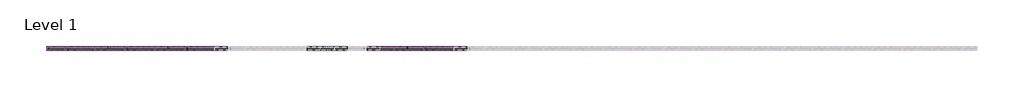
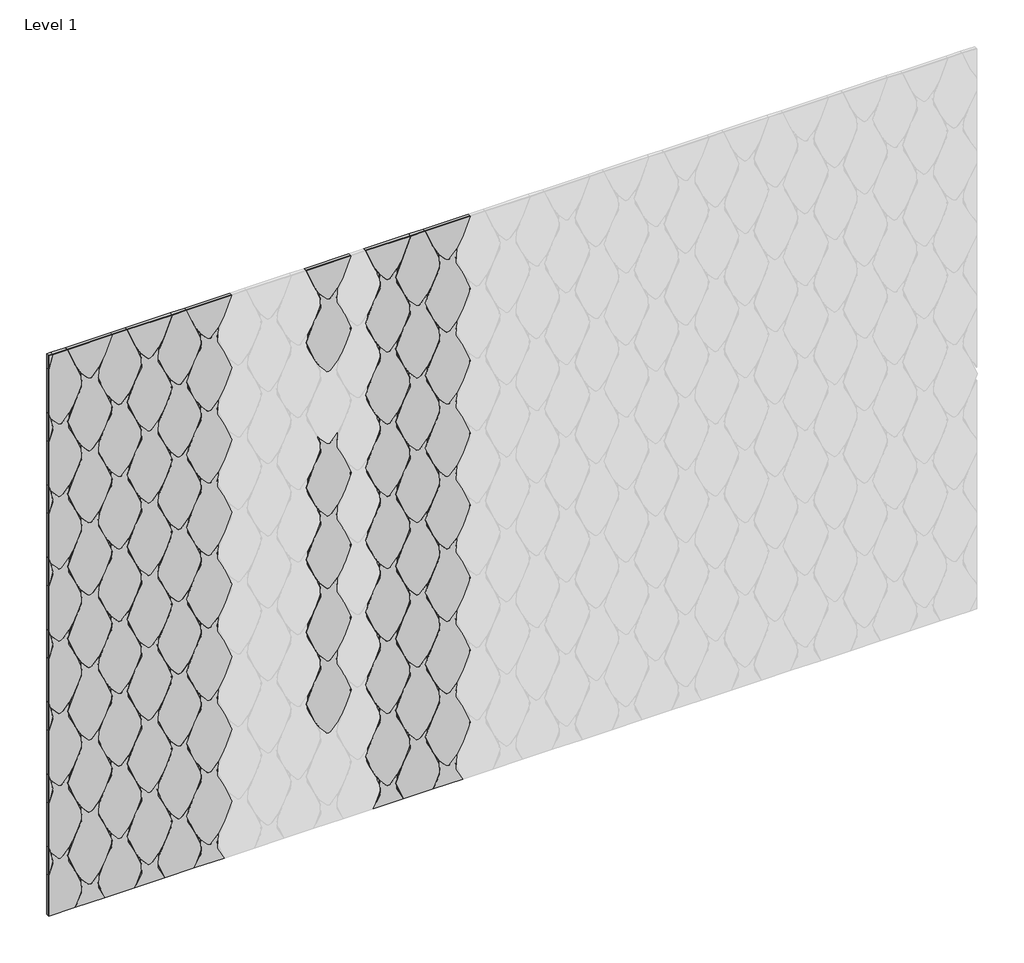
# One storey, part 1 of 3: 91 proxies.
"""IFC4 building model written with IfcOpenShell, lengths in millimetres."""

from ifc_helpers import new_model, si_unit, origin, place, context, project, spatial, transform, mapped, element, save
from components import specialty_equipment_90dfa3fd, specialty_equipment_58f33b70, specialty_equipment_1d68d449, specialty_equipment_25086a34, specialty_equipment_ef051c02, specialty_equipment_d7a9fa1d, specialty_equipment_cac041dc, specialty_equipment_c87418b1, specialty_equipment_1cb976ee, specialty_equipment_ba96d7a5, specialty_equipment_e357aaf0, specialty_equipment_11b84949, specialty_equipment_9e3873a9, specialty_equipment_e37880f2, specialty_equipment_932aa2c9, specialty_equipment_662c23e2, specialty_equipment_1b5a1322, specialty_equipment_7e85a94d

model = new_model("IFC4")

# Units and contexts
model_context = context("Model", 3, world=origin())
ifc_project = project(units=[si_unit("LENGTHUNIT", "METRE", prefix="MILLI")], contexts=[model_context])

# Site, building, storey
site = spatial("IfcSite", under=ifc_project)
building = spatial("IfcBuilding", under=site)
storey = spatial("IfcBuildingStorey", under=building, Name="Level 1", Elevation=0.0)

# Proxies
placement = place(None, origin())
specialty_equipment_shape = specialty_equipment_90dfa3fd(model_context)
element("IfcBuildingElementProxy", 1, Name="FilzFelt_Fish_Block : Fish Block", ObjectType="FilzFelt_Fish_Block : Fish Block", at=placement, inside=storey, context=model_context, shape_type="MappedRepresentation", body=[
    mapped(specialty_equipment_shape, transform((19707.4153332, 4010.4660665, 1772.986539), x_axis=(-1.0, 0.0, 0.0), y_axis=(0.0, 0.0, -1.0), z_axis=(0.0, -1.0, 0.0))),
])
element("IfcBuildingElementProxy", 2, Name="FilzFelt_Fish_Block : Fish Block", ObjectType="FilzFelt_Fish_Block : Fish Block", at=placement, inside=storey, context=model_context, shape_type="MappedRepresentation", body=[
    mapped(specialty_equipment_shape, transform((20135.8044989, 4010.4660665, 949.6423796), x_axis=(-1.0, 0.0, 0.0), y_axis=(0.0, 0.0, -1.0), z_axis=(0.0, -1.0, 0.0))),
])
element("IfcBuildingElementProxy", 3, Name="FilzFelt_Fish_Block : Fish Block", ObjectType="FilzFelt_Fish_Block : Fish Block", at=placement, inside=storey, context=model_context, shape_type="MappedRepresentation", body=[
    mapped(specialty_equipment_shape, transform((20135.8044989, 4010.4660665, 2321.8826453), x_axis=(-1.0, 0.0, 0.0), y_axis=(0.0, 0.0, -1.0), z_axis=(0.0, -1.0, 0.0))),
])
element("IfcBuildingElementProxy", 4, Name="FilzFelt_Fish_Block : Fish Block", ObjectType="FilzFelt_Fish_Block : Fish Block", at=placement, inside=storey, context=model_context, shape_type="MappedRepresentation", body=[
    mapped(specialty_equipment_shape, transform((20135.8044989, 4010.4660665, 1772.986539), x_axis=(-1.0, 0.0, 0.0), y_axis=(0.0, 0.0, -1.0), z_axis=(0.0, -1.0, 0.0))),
])
element("IfcBuildingElementProxy", 5, Name="FilzFelt_Fish_Block : Fish Block", ObjectType="FilzFelt_Fish_Block : Fish Block", at=placement, inside=storey, context=model_context, shape_type="MappedRepresentation", body=[
    mapped(specialty_equipment_shape, transform((20028.7072074, 4010.4660665, 1910.2105656), x_axis=(-1.0, 0.0, 0.0), y_axis=(0.0, 0.0, -1.0), z_axis=(0.0, -1.0, 0.0))),
])
element("IfcBuildingElementProxy", 6, Name="FilzFelt_Fish_Block : Fish Block", ObjectType="FilzFelt_Fish_Block : Fish Block", at=placement, inside=storey, context=model_context, shape_type="MappedRepresentation", body=[
    mapped(specialty_equipment_shape, transform((20885.4855388, 4010.4660665, 1086.8664061), x_axis=(-1.0, 0.0, 0.0), y_axis=(0.0, 0.0, -1.0), z_axis=(0.0, -1.0, 0.0))),
])
element("IfcBuildingElementProxy", 7, Name="FilzFelt_Fish_Block : Fish Block", ObjectType="FilzFelt_Fish_Block : Fish Block", at=placement, inside=storey, context=model_context, shape_type="MappedRepresentation", body=[
    mapped(specialty_equipment_shape, transform((19707.4153332, 4010.4660665, 949.6423796), x_axis=(-1.0, 0.0, 0.0), y_axis=(0.0, 0.0, -1.0), z_axis=(0.0, -1.0, 0.0))),
])
element("IfcBuildingElementProxy", 8, Name="FilzFelt_Fish_Block : Fish Block", ObjectType="FilzFelt_Fish_Block : Fish Block", at=placement, inside=storey, context=model_context, shape_type="MappedRepresentation", body=[
    mapped(specialty_equipment_shape, transform((19707.4153332, 4010.4660665, 2321.8826453), x_axis=(-1.0, 0.0, 0.0), y_axis=(0.0, 0.0, -1.0), z_axis=(0.0, -1.0, 0.0))),
])
element("IfcBuildingElementProxy", 9, Name="FilzFelt_Fish_Block : Fish Block", ObjectType="FilzFelt_Fish_Block : Fish Block", at=placement, inside=storey, context=model_context, shape_type="MappedRepresentation", body=[
    mapped(specialty_equipment_shape, transform((20135.8044989, 4010.4660665, 1224.0904327), x_axis=(-1.0, 0.0, 0.0), y_axis=(0.0, 0.0, -1.0), z_axis=(0.0, -1.0, 0.0))),
])
element("IfcBuildingElementProxy", 10, Name="FilzFelt_Fish_Block : Fish Block", ObjectType="FilzFelt_Fish_Block : Fish Block", at=placement, inside=storey, context=model_context, shape_type="MappedRepresentation", body=[
    mapped(specialty_equipment_shape, transform((20135.8044989, 4010.4660665, 2047.4345922), x_axis=(-1.0, 0.0, 0.0), y_axis=(0.0, 0.0, -1.0), z_axis=(0.0, -1.0, 0.0))),
])
element("IfcBuildingElementProxy", 11, Name="FilzFelt_Fish_Block : Fish Block", ObjectType="FilzFelt_Fish_Block : Fish Block", at=placement, inside=storey, context=model_context, shape_type="MappedRepresentation", body=[
    mapped(specialty_equipment_shape, transform((20028.7072074, 4010.4660665, 812.418353), x_axis=(-1.0, 0.0, 0.0), y_axis=(0.0, 0.0, -1.0), z_axis=(0.0, -1.0, 0.0))),
])
element("IfcBuildingElementProxy", 12, Name="FilzFelt_Fish_Block : Fish Block", ObjectType="FilzFelt_Fish_Block : Fish Block", at=placement, inside=storey, context=model_context, shape_type="MappedRepresentation", body=[
    mapped(specialty_equipment_shape, transform((20028.7072074, 4010.4660665, 1635.7625124), x_axis=(-1.0, 0.0, 0.0), y_axis=(0.0, 0.0, -1.0), z_axis=(0.0, -1.0, 0.0))),
])
element("IfcBuildingElementProxy", 13, Name="FilzFelt_Fish_Block : Fish Block", ObjectType="FilzFelt_Fish_Block : Fish Block", at=placement, inside=storey, context=model_context, shape_type="MappedRepresentation", body=[
    mapped(specialty_equipment_shape, transform((20028.7072074, 4010.4660665, 2184.6586188), x_axis=(-1.0, 0.0, 0.0), y_axis=(0.0, 0.0, -1.0), z_axis=(0.0, -1.0, 0.0))),
])
element("IfcBuildingElementProxy", 14, Name="FilzFelt_Fish_Block : Fish Block", ObjectType="FilzFelt_Fish_Block : Fish Block", at=placement, inside=storey, context=model_context, shape_type="MappedRepresentation", body=[
    mapped(specialty_equipment_shape, transform((20885.4855388, 4010.4660665, 1635.7625124), x_axis=(-1.0, 0.0, 0.0), y_axis=(0.0, 0.0, -1.0), z_axis=(0.0, -1.0, 0.0))),
])
element("IfcBuildingElementProxy", 15, Name="FilzFelt_Fish_Block : Fish Block", ObjectType="FilzFelt_Fish_Block : Fish Block", at=placement, inside=storey, context=model_context, shape_type="MappedRepresentation", body=[
    mapped(specialty_equipment_shape, transform((20885.4855388, 4010.4660665, 1910.2105656), x_axis=(-1.0, 0.0, 0.0), y_axis=(0.0, 0.0, -1.0), z_axis=(0.0, -1.0, 0.0))),
])
element("IfcBuildingElementProxy", 16, Name="FilzFelt_Fish_Block : Fish Block", ObjectType="FilzFelt_Fish_Block : Fish Block", at=placement, inside=storey, context=model_context, shape_type="MappedRepresentation", body=[
    mapped(specialty_equipment_shape, transform((20135.8044989, 4010.4660665, 1498.5384859), x_axis=(-1.0, 0.0, 0.0), y_axis=(0.0, 0.0, -1.0), z_axis=(0.0, -1.0, 0.0))),
])
element("IfcBuildingElementProxy", 17, Name="FilzFelt_Fish_Block : Fish Block", ObjectType="FilzFelt_Fish_Block : Fish Block", at=placement, inside=storey, context=model_context, shape_type="MappedRepresentation", body=[
    mapped(specialty_equipment_shape, transform((20028.7072074, 4010.4660665, 1086.8664061), x_axis=(-1.0, 0.0, 0.0), y_axis=(0.0, 0.0, -1.0), z_axis=(0.0, -1.0, 0.0))),
])
element("IfcBuildingElementProxy", 18, Name="FilzFelt_Fish_Block : Fish Block", ObjectType="FilzFelt_Fish_Block : Fish Block", at=placement, inside=storey, context=model_context, shape_type="MappedRepresentation", body=[
    mapped(specialty_equipment_shape, transform((20885.4855388, 4010.4660665, 1361.3144593), x_axis=(-1.0, 0.0, 0.0), y_axis=(0.0, 0.0, -1.0), z_axis=(0.0, -1.0, 0.0))),
])
specialty_equipment_2_shape = specialty_equipment_58f33b70(model_context)
element("IfcBuildingElementProxy", 19, Name="FilzFelt_Fish_Block : Fish Block", ObjectType="FilzFelt_Fish_Block : Fish Block", at=placement, inside=storey, context=model_context, shape_type="MappedRepresentation", body=[
    mapped(specialty_equipment_2_shape, transform((20135.8044989, 4010.4660665, 675.1943264), x_axis=(-1.0, 0.0, 0.0), y_axis=(0.0, 0.0, -1.0), z_axis=(0.0, -1.0, 0.0))),
])
element("IfcBuildingElementProxy", 20, Name="FilzFelt_Fish_Block : Fish Block", ObjectType="FilzFelt_Fish_Block : Fish Block", at=placement, inside=storey, context=model_context, shape_type="MappedRepresentation", body=[
    mapped(specialty_equipment_shape, transform((19707.4153332, 4010.4660665, 1224.0904327), x_axis=(-1.0, 0.0, 0.0), y_axis=(0.0, 0.0, -1.0), z_axis=(0.0, -1.0, 0.0))),
])
element("IfcBuildingElementProxy", 21, Name="FilzFelt_Fish_Block : Fish Block", ObjectType="FilzFelt_Fish_Block : Fish Block", at=placement, inside=storey, context=model_context, shape_type="MappedRepresentation", body=[
    mapped(specialty_equipment_shape, transform((19707.4153332, 4010.4660665, 1498.5384859), x_axis=(-1.0, 0.0, 0.0), y_axis=(0.0, 0.0, -1.0), z_axis=(0.0, -1.0, 0.0))),
])
element("IfcBuildingElementProxy", 22, Name="FilzFelt_Fish_Block : Fish Block", ObjectType="FilzFelt_Fish_Block : Fish Block", at=placement, inside=storey, context=model_context, shape_type="MappedRepresentation", body=[
    mapped(specialty_equipment_shape, transform((19707.4153332, 4010.4660665, 2047.4345922), x_axis=(-1.0, 0.0, 0.0), y_axis=(0.0, 0.0, -1.0), z_axis=(0.0, -1.0, 0.0))),
])
element("IfcBuildingElementProxy", 23, Name="FilzFelt_Fish_Block : Fish Block", ObjectType="FilzFelt_Fish_Block : Fish Block", at=placement, inside=storey, context=model_context, shape_type="MappedRepresentation", body=[
    mapped(specialty_equipment_shape, transform((20028.7072074, 4010.4660665, 1361.3144593), x_axis=(-1.0, 0.0, 0.0), y_axis=(0.0, 0.0, -1.0), z_axis=(0.0, -1.0, 0.0))),
])
element("IfcBuildingElementProxy", 24, Name="FilzFelt_Fish_Block : Fish Block", ObjectType="FilzFelt_Fish_Block : Fish Block", at=placement, inside=storey, context=model_context, shape_type="MappedRepresentation", body=[
    mapped(specialty_equipment_shape, transform((20885.4855388, 4010.4660665, 812.418353), x_axis=(-1.0, 0.0, 0.0), y_axis=(0.0, 0.0, -1.0), z_axis=(0.0, -1.0, 0.0))),
])
element("IfcBuildingElementProxy", 25, Name="FilzFelt_Fish_Block : Fish Block", ObjectType="FilzFelt_Fish_Block : Fish Block", at=placement, inside=storey, context=model_context, shape_type="MappedRepresentation", body=[
    mapped(specialty_equipment_shape, transform((20885.4855388, 4010.4660665, 2184.6586188), x_axis=(-1.0, 0.0, 0.0), y_axis=(0.0, 0.0, -1.0), z_axis=(0.0, -1.0, 0.0))),
])
specialty_equipment_3_shape = specialty_equipment_1d68d449(model_context)
element("IfcBuildingElementProxy", 26, Name="FilzFelt_Fish_Block : Fish Block", ObjectType="FilzFelt_Fish_Block : Fish Block", at=placement, inside=storey, context=model_context, shape_type="MappedRepresentation", body=[
    mapped(specialty_equipment_3_shape, transform((20992.5828302, 4010.4660665, 1498.5384859), x_axis=(1.0, 0.0, 0.0), y_axis=(0.0, 0.0, 1.0), z_axis=(0.0, -1.0, 0.0))),
])
element("IfcBuildingElementProxy", 27, Name="FilzFelt_Fish_Block : Fish Block", ObjectType="FilzFelt_Fish_Block : Fish Block", at=placement, inside=storey, context=model_context, shape_type="MappedRepresentation", body=[
    mapped(specialty_equipment_3_shape, transform((19921.609916, 4010.4660665, 1498.5384859), x_axis=(1.0, 0.0, 0.0), y_axis=(0.0, 0.0, 1.0), z_axis=(0.0, -1.0, 0.0))),
])
element("IfcBuildingElementProxy", 28, Name="FilzFelt_Fish_Block : Fish Block", ObjectType="FilzFelt_Fish_Block : Fish Block", at=placement, inside=storey, context=model_context, shape_type="MappedRepresentation", body=[
    mapped(specialty_equipment_3_shape, transform((19921.609916, 4010.4660665, 2047.4345922), x_axis=(1.0, 0.0, 0.0), y_axis=(0.0, 0.0, 1.0), z_axis=(0.0, -1.0, 0.0))),
])
element("IfcBuildingElementProxy", 29, Name="FilzFelt_Fish_Block : Fish Block", ObjectType="FilzFelt_Fish_Block : Fish Block", at=placement, inside=storey, context=model_context, shape_type="MappedRepresentation", body=[
    mapped(specialty_equipment_3_shape, transform((19814.5126246, 4010.4660665, 1086.8664061), x_axis=(1.0, 0.0, 0.0), y_axis=(0.0, 0.0, 1.0), z_axis=(0.0, -1.0, 0.0))),
])
element("IfcBuildingElementProxy", 30, Name="FilzFelt_Fish_Block : Fish Block", ObjectType="FilzFelt_Fish_Block : Fish Block", at=placement, inside=storey, context=model_context, shape_type="MappedRepresentation", body=[
    mapped(specialty_equipment_3_shape, transform((20778.3882474, 4010.4660665, 1772.986539), x_axis=(1.0, 0.0, 0.0), y_axis=(0.0, 0.0, 1.0), z_axis=(0.0, -1.0, 0.0))),
])
element("IfcBuildingElementProxy", 31, Name="FilzFelt_Fish_Block : Fish Block", ObjectType="FilzFelt_Fish_Block : Fish Block", at=placement, inside=storey, context=model_context, shape_type="MappedRepresentation", body=[
    mapped(specialty_equipment_3_shape, transform((20564.1936645, 4010.4660665, 1224.0904327), x_axis=(1.0, 0.0, 0.0), y_axis=(0.0, 0.0, 1.0), z_axis=(0.0, -1.0, 0.0))),
])
element("IfcBuildingElementProxy", 32, Name="FilzFelt_Fish_Block : Fish Block", ObjectType="FilzFelt_Fish_Block : Fish Block", at=placement, inside=storey, context=model_context, shape_type="MappedRepresentation", body=[
    mapped(specialty_equipment_3_shape, transform((20992.5828302, 4010.4660665, 1772.986539), x_axis=(1.0, 0.0, 0.0), y_axis=(0.0, 0.0, 1.0), z_axis=(0.0, -1.0, 0.0))),
])
element("IfcBuildingElementProxy", 33, Name="FilzFelt_Fish_Block : Fish Block", ObjectType="FilzFelt_Fish_Block : Fish Block", at=placement, inside=storey, context=model_context, shape_type="MappedRepresentation", body=[
    mapped(specialty_equipment_3_shape, transform((19921.609916, 4010.4660665, 949.6423796), x_axis=(1.0, 0.0, 0.0), y_axis=(0.0, 0.0, 1.0), z_axis=(0.0, -1.0, 0.0))),
])
element("IfcBuildingElementProxy", 34, Name="FilzFelt_Fish_Block : Fish Block", ObjectType="FilzFelt_Fish_Block : Fish Block", at=placement, inside=storey, context=model_context, shape_type="MappedRepresentation", body=[
    mapped(specialty_equipment_3_shape, transform((19921.609916, 4010.4660665, 2321.8826453), x_axis=(1.0, 0.0, 0.0), y_axis=(0.0, 0.0, 1.0), z_axis=(0.0, -1.0, 0.0))),
])
element("IfcBuildingElementProxy", 35, Name="FilzFelt_Fish_Block : Fish Block", ObjectType="FilzFelt_Fish_Block : Fish Block", at=placement, inside=storey, context=model_context, shape_type="MappedRepresentation", body=[
    mapped(specialty_equipment_3_shape, transform((19814.5126246, 4010.4660665, 1635.7625124), x_axis=(1.0, 0.0, 0.0), y_axis=(0.0, 0.0, 1.0), z_axis=(0.0, -1.0, 0.0))),
])
element("IfcBuildingElementProxy", 36, Name="FilzFelt_Fish_Block : Fish Block", ObjectType="FilzFelt_Fish_Block : Fish Block", at=placement, inside=storey, context=model_context, shape_type="MappedRepresentation", body=[
    mapped(specialty_equipment_3_shape, transform((20778.3882474, 4010.4660665, 1498.5384859), x_axis=(1.0, 0.0, 0.0), y_axis=(0.0, 0.0, 1.0), z_axis=(0.0, -1.0, 0.0))),
])
element("IfcBuildingElementProxy", 37, Name="FilzFelt_Fish_Block : Fish Block", ObjectType="FilzFelt_Fish_Block : Fish Block", at=placement, inside=storey, context=model_context, shape_type="MappedRepresentation", body=[
    mapped(specialty_equipment_3_shape, transform((20992.5828302, 4010.4660665, 1224.0904327), x_axis=(1.0, 0.0, 0.0), y_axis=(0.0, 0.0, 1.0), z_axis=(0.0, -1.0, 0.0))),
])
element("IfcBuildingElementProxy", 38, Name="FilzFelt_Fish_Block : Fish Block", ObjectType="FilzFelt_Fish_Block : Fish Block", at=placement, inside=storey, context=model_context, shape_type="MappedRepresentation", body=[
    mapped(specialty_equipment_3_shape, transform((20992.5828302, 4010.4660665, 949.6423796), x_axis=(1.0, 0.0, 0.0), y_axis=(0.0, 0.0, 1.0), z_axis=(0.0, -1.0, 0.0))),
])
element("IfcBuildingElementProxy", 39, Name="FilzFelt_Fish_Block : Fish Block", ObjectType="FilzFelt_Fish_Block : Fish Block", at=placement, inside=storey, context=model_context, shape_type="MappedRepresentation", body=[
    mapped(specialty_equipment_3_shape, transform((20992.5828302, 4010.4660665, 2321.8826453), x_axis=(1.0, 0.0, 0.0), y_axis=(0.0, 0.0, 1.0), z_axis=(0.0, -1.0, 0.0))),
])
element("IfcBuildingElementProxy", 40, Name="FilzFelt_Fish_Block : Fish Block", ObjectType="FilzFelt_Fish_Block : Fish Block", at=placement, inside=storey, context=model_context, shape_type="MappedRepresentation", body=[
    mapped(specialty_equipment_3_shape, transform((20992.5828302, 4010.4660665, 2047.4345922), x_axis=(1.0, 0.0, 0.0), y_axis=(0.0, 0.0, 1.0), z_axis=(0.0, -1.0, 0.0))),
])
element("IfcBuildingElementProxy", 41, Name="FilzFelt_Fish_Block : Fish Block", ObjectType="FilzFelt_Fish_Block : Fish Block", at=placement, inside=storey, context=model_context, shape_type="MappedRepresentation", body=[
    mapped(specialty_equipment_3_shape, transform((19921.609916, 4010.4660665, 1224.0904327), x_axis=(1.0, 0.0, 0.0), y_axis=(0.0, 0.0, 1.0), z_axis=(0.0, -1.0, 0.0))),
])
element("IfcBuildingElementProxy", 42, Name="FilzFelt_Fish_Block : Fish Block", ObjectType="FilzFelt_Fish_Block : Fish Block", at=placement, inside=storey, context=model_context, shape_type="MappedRepresentation", body=[
    mapped(specialty_equipment_3_shape, transform((19814.5126246, 4010.4660665, 1361.3144593), x_axis=(1.0, 0.0, 0.0), y_axis=(0.0, 0.0, 1.0), z_axis=(0.0, -1.0, 0.0))),
])
element("IfcBuildingElementProxy", 43, Name="FilzFelt_Fish_Block : Fish Block", ObjectType="FilzFelt_Fish_Block : Fish Block", at=placement, inside=storey, context=model_context, shape_type="MappedRepresentation", body=[
    mapped(specialty_equipment_3_shape, transform((19814.5126246, 4010.4660665, 1910.2105656), x_axis=(1.0, 0.0, 0.0), y_axis=(0.0, 0.0, 1.0), z_axis=(0.0, -1.0, 0.0))),
])
element("IfcBuildingElementProxy", 44, Name="FilzFelt_Fish_Block : Fish Block", ObjectType="FilzFelt_Fish_Block : Fish Block", at=placement, inside=storey, context=model_context, shape_type="MappedRepresentation", body=[
    mapped(specialty_equipment_3_shape, transform((20778.3882474, 4010.4660665, 1224.0904327), x_axis=(1.0, 0.0, 0.0), y_axis=(0.0, 0.0, 1.0), z_axis=(0.0, -1.0, 0.0))),
])
element("IfcBuildingElementProxy", 45, Name="FilzFelt_Fish_Block : Fish Block", ObjectType="FilzFelt_Fish_Block : Fish Block", at=placement, inside=storey, context=model_context, shape_type="MappedRepresentation", body=[
    mapped(specialty_equipment_3_shape, transform((20778.3882474, 4010.4660665, 2047.4345922), x_axis=(1.0, 0.0, 0.0), y_axis=(0.0, 0.0, 1.0), z_axis=(0.0, -1.0, 0.0))),
])
element("IfcBuildingElementProxy", 46, Name="FilzFelt_Fish_Block : Fish Block", ObjectType="FilzFelt_Fish_Block : Fish Block", at=placement, inside=storey, context=model_context, shape_type="MappedRepresentation", body=[
    mapped(specialty_equipment_3_shape, transform((20564.1936645, 4010.4660665, 1498.5384859), x_axis=(1.0, 0.0, 0.0), y_axis=(0.0, 0.0, 1.0), z_axis=(0.0, -1.0, 0.0))),
])
element("IfcBuildingElementProxy", 47, Name="FilzFelt_Fish_Block : Fish Block", ObjectType="FilzFelt_Fish_Block : Fish Block", at=placement, inside=storey, context=model_context, shape_type="MappedRepresentation", body=[
    mapped(specialty_equipment_3_shape, transform((20564.1936645, 4010.4660665, 949.6423796), x_axis=(1.0, 0.0, 0.0), y_axis=(0.0, 0.0, 1.0), z_axis=(0.0, -1.0, 0.0))),
])
element("IfcBuildingElementProxy", 48, Name="FilzFelt_Fish_Block : Fish Block", ObjectType="FilzFelt_Fish_Block : Fish Block", at=placement, inside=storey, context=model_context, shape_type="MappedRepresentation", body=[
    mapped(specialty_equipment_3_shape, transform((20564.1936645, 4010.4660665, 2321.8826453), x_axis=(1.0, 0.0, 0.0), y_axis=(0.0, 0.0, 1.0), z_axis=(0.0, -1.0, 0.0))),
])
specialty_equipment_4_shape = specialty_equipment_25086a34(model_context)
element("IfcBuildingElementProxy", 49, Name="FilzFelt_Fish_Block : Fish Block", ObjectType="FilzFelt_Fish_Block : Fish Block", at=placement, inside=storey, context=model_context, shape_type="MappedRepresentation", body=[
    mapped(specialty_equipment_4_shape, transform((20564.1936645, 4010.4660665, 2596.3306985), x_axis=(1.0, 0.0, 0.0), y_axis=(0.0, 0.0, 1.0), z_axis=(0.0, -1.0, 0.0))),
])
specialty_equipment_5_shape = specialty_equipment_ef051c02(model_context)
element("IfcBuildingElementProxy", 50, Name="FilzFelt_Fish_Block : Fish Block", ObjectType="FilzFelt_Fish_Block : Fish Block", at=placement, inside=storey, context=model_context, shape_type="MappedRepresentation", body=[
    mapped(specialty_equipment_5_shape, transform((20778.3882474, 4010.4660665, 400.7462733), x_axis=(1.0, 0.0, 0.0), y_axis=(0.0, 0.0, 1.0), z_axis=(0.0, -1.0, 0.0))),
])
specialty_equipment_6_shape = specialty_equipment_d7a9fa1d(model_context)
element("IfcBuildingElementProxy", 51, Name="FilzFelt_Fish_Block : Fish Block", ObjectType="FilzFelt_Fish_Block : Fish Block", at=placement, inside=storey, context=model_context, shape_type="MappedRepresentation", body=[
    mapped(specialty_equipment_6_shape, transform((20992.5828302, 4010.4660665, 675.1943264), x_axis=(1.0, 0.0, 0.0), y_axis=(0.0, 0.0, 1.0), z_axis=(0.0, -1.0, 0.0))),
])
element("IfcBuildingElementProxy", 52, Name="FilzFelt_Fish_Block : Fish Block", ObjectType="FilzFelt_Fish_Block : Fish Block", at=placement, inside=storey, context=model_context, shape_type="MappedRepresentation", body=[
    mapped(specialty_equipment_6_shape, transform((20778.3882474, 4010.4660665, 675.1943264), x_axis=(1.0, 0.0, 0.0), y_axis=(0.0, 0.0, 1.0), z_axis=(0.0, -1.0, 0.0))),
])
element("IfcBuildingElementProxy", 53, Name="FilzFelt_Fish_Block : Fish Block", ObjectType="FilzFelt_Fish_Block : Fish Block", at=placement, inside=storey, context=model_context, shape_type="MappedRepresentation", body=[
    mapped(specialty_equipment_3_shape, transform((19921.609916, 4010.4660665, 1772.986539), x_axis=(1.0, 0.0, 0.0), y_axis=(0.0, 0.0, 1.0), z_axis=(0.0, -1.0, 0.0))),
])
element("IfcBuildingElementProxy", 54, Name="FilzFelt_Fish_Block : Fish Block", ObjectType="FilzFelt_Fish_Block : Fish Block", at=placement, inside=storey, context=model_context, shape_type="MappedRepresentation", body=[
    mapped(specialty_equipment_3_shape, transform((19814.5126246, 4010.4660665, 812.418353), x_axis=(1.0, 0.0, 0.0), y_axis=(0.0, 0.0, 1.0), z_axis=(0.0, -1.0, 0.0))),
])
element("IfcBuildingElementProxy", 55, Name="FilzFelt_Fish_Block : Fish Block", ObjectType="FilzFelt_Fish_Block : Fish Block", at=placement, inside=storey, context=model_context, shape_type="MappedRepresentation", body=[
    mapped(specialty_equipment_3_shape, transform((19814.5126246, 4010.4660665, 2184.6586188), x_axis=(1.0, 0.0, 0.0), y_axis=(0.0, 0.0, 1.0), z_axis=(0.0, -1.0, 0.0))),
])
element("IfcBuildingElementProxy", 56, Name="FilzFelt_Fish_Block : Fish Block", ObjectType="FilzFelt_Fish_Block : Fish Block", at=placement, inside=storey, context=model_context, shape_type="MappedRepresentation", body=[
    mapped(specialty_equipment_3_shape, transform((20778.3882474, 4010.4660665, 949.6423796), x_axis=(1.0, 0.0, 0.0), y_axis=(0.0, 0.0, 1.0), z_axis=(0.0, -1.0, 0.0))),
])
element("IfcBuildingElementProxy", 57, Name="FilzFelt_Fish_Block : Fish Block", ObjectType="FilzFelt_Fish_Block : Fish Block", at=placement, inside=storey, context=model_context, shape_type="MappedRepresentation", body=[
    mapped(specialty_equipment_3_shape, transform((20778.3882474, 4010.4660665, 2321.8826453), x_axis=(1.0, 0.0, 0.0), y_axis=(0.0, 0.0, 1.0), z_axis=(0.0, -1.0, 0.0))),
])
element("IfcBuildingElementProxy", 58, Name="FilzFelt_Fish_Block : Fish Block", ObjectType="FilzFelt_Fish_Block : Fish Block", at=placement, inside=storey, context=model_context, shape_type="MappedRepresentation", body=[
    mapped(specialty_equipment_3_shape, transform((20564.1936645, 4010.4660665, 1772.986539), x_axis=(1.0, 0.0, 0.0), y_axis=(0.0, 0.0, 1.0), z_axis=(0.0, -1.0, 0.0))),
])
element("IfcBuildingElementProxy", 59, Name="FilzFelt_Fish_Block : Fish Block", ObjectType="FilzFelt_Fish_Block : Fish Block", at=placement, inside=storey, context=model_context, shape_type="MappedRepresentation", body=[
    mapped(specialty_equipment_4_shape, transform((20992.5828302, 4010.4660665, 2596.3306985), x_axis=(1.0, 0.0, 0.0), y_axis=(0.0, 0.0, 1.0), z_axis=(0.0, -1.0, 0.0))),
])
element("IfcBuildingElementProxy", 60, Name="FilzFelt_Fish_Block : Fish Block", ObjectType="FilzFelt_Fish_Block : Fish Block", at=placement, inside=storey, context=model_context, shape_type="MappedRepresentation", body=[
    mapped(specialty_equipment_4_shape, transform((19921.609916, 4010.4660665, 2596.3306985), x_axis=(1.0, 0.0, 0.0), y_axis=(0.0, 0.0, 1.0), z_axis=(0.0, -1.0, 0.0))),
])
element("IfcBuildingElementProxy", 61, Name="FilzFelt_Fish_Block : Fish Block", ObjectType="FilzFelt_Fish_Block : Fish Block", at=placement, inside=storey, context=model_context, shape_type="MappedRepresentation", body=[
    mapped(specialty_equipment_4_shape, transform((20778.3882474, 4010.4660665, 2596.3306985), x_axis=(1.0, 0.0, 0.0), y_axis=(0.0, 0.0, 1.0), z_axis=(0.0, -1.0, 0.0))),
])
specialty_equipment_7_shape = specialty_equipment_cac041dc(model_context)
element("IfcBuildingElementProxy", 62, Name="FilzFelt_Fish_Block : Fish Block", ObjectType="FilzFelt_Fish_Block : Fish Block", at=placement, inside=storey, context=model_context, shape_type="MappedRepresentation", body=[
    mapped(specialty_equipment_7_shape, transform((19814.5126246, 4010.4660665, 537.9702998), x_axis=(1.0, 0.0, 0.0), y_axis=(0.0, 0.0, 1.0), z_axis=(0.0, -1.0, 0.0))),
])
specialty_equipment_8_shape = specialty_equipment_c87418b1(model_context)
element("IfcBuildingElementProxy", 63, Name="FilzFelt_Fish_Block : Fish Block", ObjectType="FilzFelt_Fish_Block : Fish Block", at=placement, inside=storey, context=model_context, shape_type="MappedRepresentation", body=[
    mapped(specialty_equipment_8_shape, transform((19814.5126246, 4010.4660665, 2459.1066719), x_axis=(1.0, 0.0, 0.0), y_axis=(0.0, 0.0, 1.0), z_axis=(0.0, -1.0, 0.0))),
])
specialty_equipment_9_shape = specialty_equipment_1cb976ee(model_context)
element("IfcBuildingElementProxy", 64, Name="FilzFelt_Fish_Block : Fish Block", ObjectType="FilzFelt_Fish_Block : Fish Block", at=placement, inside=storey, context=model_context, shape_type="MappedRepresentation", body=[
    mapped(specialty_equipment_9_shape, transform((20135.8044989, 4010.4660665, 2596.3306985), x_axis=(-1.0, 0.0, 0.0), y_axis=(0.0, 0.0, -1.0), z_axis=(0.0, -1.0, 0.0))),
])
specialty_equipment_10_shape = specialty_equipment_ba96d7a5(model_context)
element("IfcBuildingElementProxy", 65, Name="FilzFelt_Fish_Block : Fish Block", ObjectType="FilzFelt_Fish_Block : Fish Block", at=placement, inside=storey, context=model_context, shape_type="MappedRepresentation", body=[
    mapped(specialty_equipment_10_shape, transform((20028.7072074, 4010.4660665, 537.9702998), x_axis=(-1.0, 0.0, 0.0), y_axis=(0.0, 0.0, -1.0), z_axis=(0.0, -1.0, 0.0))),
])
specialty_equipment_11_shape = specialty_equipment_e357aaf0(model_context)
element("IfcBuildingElementProxy", 66, Name="FilzFelt_Fish_Block : Fish Block", ObjectType="FilzFelt_Fish_Block : Fish Block", at=placement, inside=storey, context=model_context, shape_type="MappedRepresentation", body=[
    mapped(specialty_equipment_11_shape, transform((20028.7072074, 4010.4660665, 2459.1066719), x_axis=(-1.0, 0.0, 0.0), y_axis=(0.0, 0.0, -1.0), z_axis=(0.0, -1.0, 0.0))),
])
element("IfcBuildingElementProxy", 67, Name="FilzFelt_Fish_Block : Fish Block", ObjectType="FilzFelt_Fish_Block : Fish Block", at=placement, inside=storey, context=model_context, shape_type="MappedRepresentation", body=[
    mapped(specialty_equipment_5_shape, transform((20992.5828302, 4010.4660665, 400.7462733), x_axis=(1.0, 0.0, 0.0), y_axis=(0.0, 0.0, 1.0), z_axis=(0.0, -1.0, 0.0))),
])
element("IfcBuildingElementProxy", 68, Name="FilzFelt_Fish_Block : Fish Block", ObjectType="FilzFelt_Fish_Block : Fish Block", at=placement, inside=storey, context=model_context, shape_type="MappedRepresentation", body=[
    mapped(specialty_equipment_9_shape, transform((19707.4153332, 4010.4660665, 2596.3306985), x_axis=(-1.0, 0.0, 0.0), y_axis=(0.0, 0.0, -1.0), z_axis=(0.0, -1.0, 0.0))),
])
element("IfcBuildingElementProxy", 69, Name="FilzFelt_Fish_Block : Fish Block", ObjectType="FilzFelt_Fish_Block : Fish Block", at=placement, inside=storey, context=model_context, shape_type="MappedRepresentation", body=[
    mapped(specialty_equipment_10_shape, transform((20885.4855388, 4010.4660665, 537.9702998), x_axis=(-1.0, 0.0, 0.0), y_axis=(0.0, 0.0, -1.0), z_axis=(0.0, -1.0, 0.0))),
])
element("IfcBuildingElementProxy", 70, Name="FilzFelt_Fish_Block : Fish Block", ObjectType="FilzFelt_Fish_Block : Fish Block", at=placement, inside=storey, context=model_context, shape_type="MappedRepresentation", body=[
    mapped(specialty_equipment_11_shape, transform((20885.4855388, 4010.4660665, 2459.1066719), x_axis=(-1.0, 0.0, 0.0), y_axis=(0.0, 0.0, -1.0), z_axis=(0.0, -1.0, 0.0))),
])
element("IfcBuildingElementProxy", 71, Name="FilzFelt_Fish_Block : Fish Block", ObjectType="FilzFelt_Fish_Block : Fish Block", at=placement, inside=storey, context=model_context, shape_type="MappedRepresentation", body=[
    mapped(specialty_equipment_6_shape, transform((19921.609916, 4010.4660665, 675.1943264), x_axis=(1.0, 0.0, 0.0), y_axis=(0.0, 0.0, 1.0), z_axis=(0.0, -1.0, 0.0))),
])
specialty_equipment_12_shape = specialty_equipment_11b84949(model_context)
element("IfcBuildingElementProxy", 72, Name="FilzFelt_Fish_Block : Fish Block", ObjectType="FilzFelt_Fish_Block : Fish Block", at=placement, inside=storey, context=model_context, shape_type="MappedRepresentation", body=[
    mapped(specialty_equipment_12_shape, transform((19493.2207503, 4010.4660665, 1224.0904327), x_axis=(-1.0, 0.0, 0.0), y_axis=(0.0, 0.0, -1.0), z_axis=(0.0, -1.0, 0.0))),
])
element("IfcBuildingElementProxy", 73, Name="FilzFelt_Fish_Block : Fish Block", ObjectType="FilzFelt_Fish_Block : Fish Block", at=placement, inside=storey, context=model_context, shape_type="MappedRepresentation", body=[
    mapped(specialty_equipment_12_shape, transform((19493.2207503, 4010.4660665, 1498.5384859), x_axis=(-1.0, 0.0, 0.0), y_axis=(0.0, 0.0, -1.0), z_axis=(0.0, -1.0, 0.0))),
])
element("IfcBuildingElementProxy", 74, Name="FilzFelt_Fish_Block : Fish Block", ObjectType="FilzFelt_Fish_Block : Fish Block", at=placement, inside=storey, context=model_context, shape_type="MappedRepresentation", body=[
    mapped(specialty_equipment_12_shape, transform((19493.2207503, 4010.4660665, 2047.4345922), x_axis=(-1.0, 0.0, 0.0), y_axis=(0.0, 0.0, -1.0), z_axis=(0.0, -1.0, 0.0))),
])
element("IfcBuildingElementProxy", 75, Name="FilzFelt_Fish_Block : Fish Block", ObjectType="FilzFelt_Fish_Block : Fish Block", at=placement, inside=storey, context=model_context, shape_type="MappedRepresentation", body=[
    mapped(specialty_equipment_12_shape, transform((19493.2207503, 4010.4660665, 949.6423796), x_axis=(-1.0, 0.0, 0.0), y_axis=(0.0, 0.0, -1.0), z_axis=(0.0, -1.0, 0.0))),
])
element("IfcBuildingElementProxy", 76, Name="FilzFelt_Fish_Block : Fish Block", ObjectType="FilzFelt_Fish_Block : Fish Block", at=placement, inside=storey, context=model_context, shape_type="MappedRepresentation", body=[
    mapped(specialty_equipment_12_shape, transform((19493.2207503, 4010.4660665, 2321.8826453), x_axis=(-1.0, 0.0, 0.0), y_axis=(0.0, 0.0, -1.0), z_axis=(0.0, -1.0, 0.0))),
])
element("IfcBuildingElementProxy", 77, Name="FilzFelt_Fish_Block : Fish Block", ObjectType="FilzFelt_Fish_Block : Fish Block", at=placement, inside=storey, context=model_context, shape_type="MappedRepresentation", body=[
    mapped(specialty_equipment_12_shape, transform((19493.2207503, 4010.4660665, 1772.986539), x_axis=(-1.0, 0.0, 0.0), y_axis=(0.0, 0.0, -1.0), z_axis=(0.0, -1.0, 0.0))),
])
specialty_equipment_13_shape = specialty_equipment_9e3873a9(model_context)
element("IfcBuildingElementProxy", 78, Name="FilzFelt_Fish_Block : Fish Block", ObjectType="FilzFelt_Fish_Block : Fish Block", at=placement, inside=storey, context=model_context, shape_type="MappedRepresentation", body=[
    mapped(specialty_equipment_13_shape, transform((19493.2207503, 4010.4660665, 2596.3306985), x_axis=(-1.0, 0.0, 0.0), y_axis=(0.0, 0.0, -1.0), z_axis=(0.0, -1.0, 0.0))),
])
specialty_equipment_14_shape = specialty_equipment_e37880f2(model_context)
element("IfcBuildingElementProxy", 79, Name="FilzFelt_Fish_Block : Fish Block", ObjectType="FilzFelt_Fish_Block : Fish Block", at=placement, inside=storey, context=model_context, shape_type="MappedRepresentation", body=[
    mapped(specialty_equipment_14_shape, transform((19493.2207503, 4010.4660665, 675.1943264), x_axis=(-1.0, 0.0, 0.0), y_axis=(0.0, 0.0, -1.0), z_axis=(0.0, -1.0, 0.0))),
])
specialty_equipment_15_shape = specialty_equipment_932aa2c9(model_context)
element("IfcBuildingElementProxy", 80, Name="FilzFelt_Fish_Block : Fish Block", ObjectType="FilzFelt_Fish_Block : Fish Block", at=placement, inside=storey, context=model_context, shape_type="MappedRepresentation", body=[
    mapped(specialty_equipment_15_shape, transform((19707.4153332, 4010.4660665, 400.7462733), x_axis=(-1.0, 0.0, 0.0), y_axis=(0.0, 0.0, -1.0), z_axis=(0.0, -1.0, 0.0))),
])
element("IfcBuildingElementProxy", 81, Name="FilzFelt_Fish_Block : Fish Block", ObjectType="FilzFelt_Fish_Block : Fish Block", at=placement, inside=storey, context=model_context, shape_type="MappedRepresentation", body=[
    mapped(specialty_equipment_15_shape, transform((20135.8044989, 4010.4660665, 400.7462733), x_axis=(-1.0, 0.0, 0.0), y_axis=(0.0, 0.0, -1.0), z_axis=(0.0, -1.0, 0.0))),
])
element("IfcBuildingElementProxy", 82, Name="FilzFelt_Fish_Block : Fish Block", ObjectType="FilzFelt_Fish_Block : Fish Block", at=placement, inside=storey, context=model_context, shape_type="MappedRepresentation", body=[
    mapped(specialty_equipment_2_shape, transform((19707.4153332, 4010.4660665, 675.1943264), x_axis=(-1.0, 0.0, 0.0), y_axis=(0.0, 0.0, -1.0), z_axis=(0.0, -1.0, 0.0))),
])
specialty_equipment_16_shape = specialty_equipment_662c23e2(model_context)
element("IfcBuildingElementProxy", 83, Name="FilzFelt_Fish_Block : Fish Block", ObjectType="FilzFelt_Fish_Block : Fish Block", at=placement, inside=storey, context=model_context, shape_type="MappedRepresentation", body=[
    mapped(specialty_equipment_16_shape, transform((19600.3180418, 4010.4660665, 812.418353), x_axis=(-1.0, 0.0, 0.0), y_axis=(0.0, 0.0, -1.0), z_axis=(0.0, -1.0, 0.0))),
])
element("IfcBuildingElementProxy", 84, Name="FilzFelt_Fish_Block : Fish Block", ObjectType="FilzFelt_Fish_Block : Fish Block", at=placement, inside=storey, context=model_context, shape_type="MappedRepresentation", body=[
    mapped(specialty_equipment_16_shape, transform((19600.3180418, 4010.4660665, 1635.7625124), x_axis=(-1.0, 0.0, 0.0), y_axis=(0.0, 0.0, -1.0), z_axis=(0.0, -1.0, 0.0))),
])
element("IfcBuildingElementProxy", 85, Name="FilzFelt_Fish_Block : Fish Block", ObjectType="FilzFelt_Fish_Block : Fish Block", at=placement, inside=storey, context=model_context, shape_type="MappedRepresentation", body=[
    mapped(specialty_equipment_16_shape, transform((19600.3180418, 4010.4660665, 1910.2105656), x_axis=(-1.0, 0.0, 0.0), y_axis=(0.0, 0.0, -1.0), z_axis=(0.0, -1.0, 0.0))),
])
element("IfcBuildingElementProxy", 86, Name="FilzFelt_Fish_Block : Fish Block", ObjectType="FilzFelt_Fish_Block : Fish Block", at=placement, inside=storey, context=model_context, shape_type="MappedRepresentation", body=[
    mapped(specialty_equipment_16_shape, transform((19600.3180418, 4010.4660665, 2184.6586188), x_axis=(-1.0, 0.0, 0.0), y_axis=(0.0, 0.0, -1.0), z_axis=(0.0, -1.0, 0.0))),
])
specialty_equipment_17_shape = specialty_equipment_1b5a1322(model_context)
element("IfcBuildingElementProxy", 87, Name="FilzFelt_Fish_Block : Fish Block", ObjectType="FilzFelt_Fish_Block : Fish Block", at=placement, inside=storey, context=model_context, shape_type="MappedRepresentation", body=[
    mapped(specialty_equipment_17_shape, transform((19600.3180418, 4010.4660665, 537.9702998), x_axis=(-1.0, 0.0, 0.0), y_axis=(0.0, 0.0, -1.0), z_axis=(0.0, -1.0, 0.0))),
])
element("IfcBuildingElementProxy", 88, Name="FilzFelt_Fish_Block : Fish Block", ObjectType="FilzFelt_Fish_Block : Fish Block", at=placement, inside=storey, context=model_context, shape_type="MappedRepresentation", body=[
    mapped(specialty_equipment_16_shape, transform((19600.3180418, 4010.4660665, 1086.8664061), x_axis=(-1.0, 0.0, 0.0), y_axis=(0.0, 0.0, -1.0), z_axis=(0.0, -1.0, 0.0))),
])
element("IfcBuildingElementProxy", 89, Name="FilzFelt_Fish_Block : Fish Block", ObjectType="FilzFelt_Fish_Block : Fish Block", at=placement, inside=storey, context=model_context, shape_type="MappedRepresentation", body=[
    mapped(specialty_equipment_16_shape, transform((19600.3180418, 4010.4660665, 1361.3144593), x_axis=(-1.0, 0.0, 0.0), y_axis=(0.0, 0.0, -1.0), z_axis=(0.0, -1.0, 0.0))),
])
specialty_equipment_18_shape = specialty_equipment_7e85a94d(model_context)
element("IfcBuildingElementProxy", 90, Name="FilzFelt_Fish_Block : Fish Block", ObjectType="FilzFelt_Fish_Block : Fish Block", at=placement, inside=storey, context=model_context, shape_type="MappedRepresentation", body=[
    mapped(specialty_equipment_18_shape, transform((19600.3180418, 4010.4660665, 2459.1066719), x_axis=(-1.0, 0.0, 0.0), y_axis=(0.0, 0.0, -1.0), z_axis=(0.0, -1.0, 0.0))),
])
element("IfcBuildingElementProxy", 91, Name="FilzFelt_Fish_Block : Fish Block", ObjectType="FilzFelt_Fish_Block : Fish Block", at=placement, inside=storey, context=model_context, shape_type="MappedRepresentation", body=[
    mapped(specialty_equipment_5_shape, transform((19921.609916, 4010.4660665, 400.7462733), x_axis=(1.0, 0.0, 0.0), y_axis=(0.0, 0.0, 1.0), z_axis=(0.0, -1.0, 0.0))),
])

save(model, "model.ifc")
